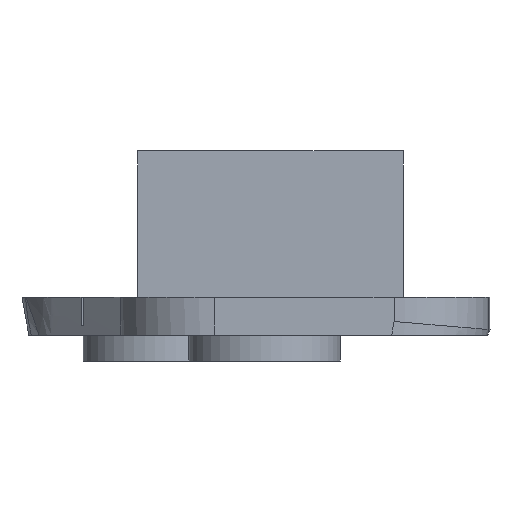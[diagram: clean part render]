
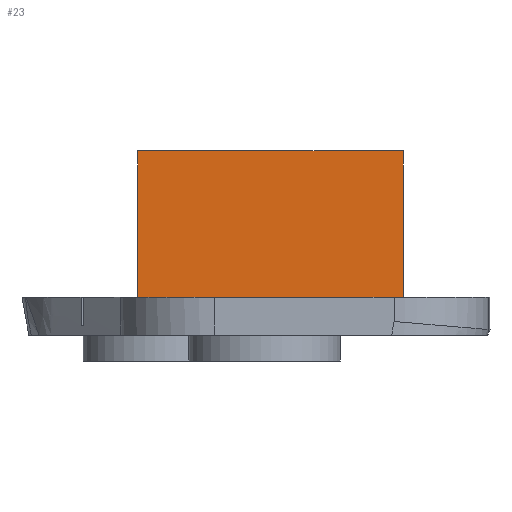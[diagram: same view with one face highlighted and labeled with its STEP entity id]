
A CAD part, front view. The second image highlights one B-rep face of the part: STEP entity #23.
In plain terms, the highlighted planar face has unit normal (0, -1, 0).
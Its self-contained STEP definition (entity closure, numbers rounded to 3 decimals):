
#23=ADVANCED_FACE('',(#68),#738,.T.);
#68=FACE_OUTER_BOUND('',#113,.T.);
#113=EDGE_LOOP('',(#171,#172,#173,#174));
#171=ORIENTED_EDGE('',*,*,#404,.T.);
#172=ORIENTED_EDGE('',*,*,#466,.F.);
#173=ORIENTED_EDGE('',*,*,#469,.F.);
#174=ORIENTED_EDGE('',*,*,#471,.F.);
#404=EDGE_CURVE('',#646,#643,#557,.T.);
#466=EDGE_CURVE('',#640,#643,#586,.T.);
#469=EDGE_CURVE('',#642,#640,#589,.T.);
#471=EDGE_CURVE('',#646,#642,#591,.T.);
#557=B_SPLINE_CURVE_WITH_KNOTS('',1,(#1424,#1425),.UNSPECIFIED.,.F.,.F.,
(2,2),(-12.,2.),.UNSPECIFIED.);
#586=B_SPLINE_CURVE_WITH_KNOTS('',1,(#1968,#1969),.UNSPECIFIED.,.F.,.F.,
(2,2),(0.,6.662),.UNSPECIFIED.);
#589=B_SPLINE_CURVE_WITH_KNOTS('',1,(#1977,#1978,#1979,#1980),
 .UNSPECIFIED.,.F.,.F.,(2,1,1,2),(0.,1.8,12.2,14.),
 .UNSPECIFIED.);
#591=B_SPLINE_CURVE_WITH_KNOTS('',1,(#1983,#1984),.UNSPECIFIED.,.F.,.F.,
(2,2),(4.538,11.2),.UNSPECIFIED.);
#640=VERTEX_POINT('',#1340);
#642=VERTEX_POINT('',#1342);
#643=VERTEX_POINT('',#1343);
#646=VERTEX_POINT('',#1346);
#738=PLANE('',#853);
#853=AXIS2_PLACEMENT_3D('',#931,#892,$);
#892=DIRECTION('',(0.,-1.,0.));
#931=CARTESIAN_POINT('',(67.708,-34.733,101.135));
#1340=CARTESIAN_POINT('',(67.708,-34.733,108.849));
#1342=CARTESIAN_POINT('',(53.708,-34.733,108.849));
#1343=CARTESIAN_POINT('',(67.708,-34.733,101.135));
#1346=CARTESIAN_POINT('',(53.708,-34.733,101.135));
#1424=CARTESIAN_POINT('',(53.708,-34.733,101.135));
#1425=CARTESIAN_POINT('',(67.708,-34.733,101.135));
#1968=CARTESIAN_POINT('',(67.708,-34.733,108.849));
#1969=CARTESIAN_POINT('',(67.708,-34.733,101.135));
#1977=CARTESIAN_POINT('',(53.708,-34.733,108.849));
#1978=CARTESIAN_POINT('',(55.508,-34.733,108.849));
#1979=CARTESIAN_POINT('',(65.908,-34.733,108.849));
#1980=CARTESIAN_POINT('',(67.708,-34.733,108.849));
#1983=CARTESIAN_POINT('',(53.708,-34.733,101.135));
#1984=CARTESIAN_POINT('',(53.708,-34.733,108.849));
